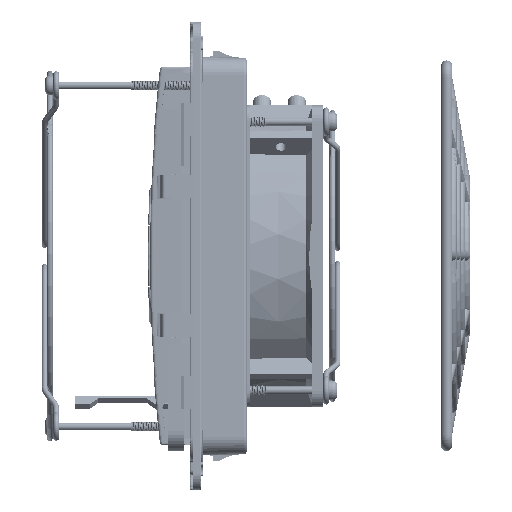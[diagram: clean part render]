
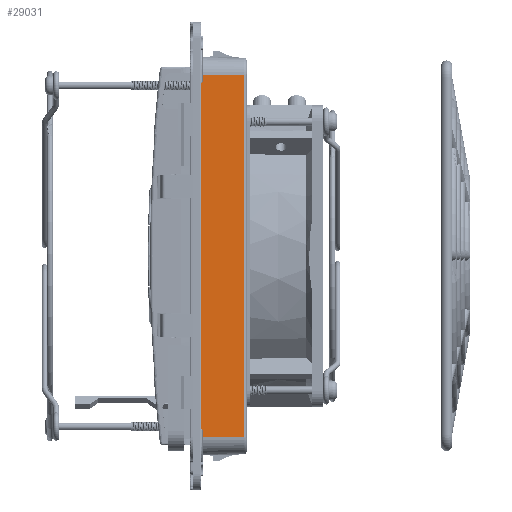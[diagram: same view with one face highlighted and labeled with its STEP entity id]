
A CAD part, left-side view. The second image highlights one B-rep face of the part: STEP entity #29031.
In plain terms, the highlighted planar face has unit normal (-1, -0.018, 0) as drawn and (0, 1, -0.017) by its records, which use the part's own axes.
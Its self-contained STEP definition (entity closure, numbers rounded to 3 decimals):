
#2553=LINE('',#143766,#6589);
#2794=LINE('',#148840,#6830);
#2795=LINE('',#148843,#6831);
#2796=LINE('',#148844,#6832);
#6589=VECTOR('',#117404,1.);
#6830=VECTOR('',#118369,1.);
#6831=VECTOR('',#118370,1.);
#6832=VECTOR('',#118371,1.);
#21549=PLANE('',#107866);
#23273=FACE_OUTER_BOUND('',#37325,.T.);
#29031=ADVANCED_FACE('',(#23273),#21549,.T.);
#37325=EDGE_LOOP('',(#45879,#45880,#45881,#45882));
#45879=ORIENTED_EDGE('',*,*,#88210,.T.);
#45880=ORIENTED_EDGE('',*,*,#88211,.T.);
#45881=ORIENTED_EDGE('',*,*,#87398,.F.);
#45882=ORIENTED_EDGE('',*,*,#88212,.F.);
#76912=VERTEX_POINT('',#143767);
#76913=VERTEX_POINT('',#143768);
#77644=VERTEX_POINT('',#148841);
#77645=VERTEX_POINT('',#148842);
#87398=EDGE_CURVE('',#76912,#76913,#2553,.T.);
#88210=EDGE_CURVE('',#77644,#77645,#2794,.T.);
#88211=EDGE_CURVE('',#77645,#76913,#2795,.T.);
#88212=EDGE_CURVE('',#77644,#76912,#2796,.T.);
#107866=AXIS2_PLACEMENT_3D('',#148845,#118372,#118373);
#117404=DIRECTION('',(-1.,0.,0.));
#118369=DIRECTION('',(-1.,0.,0.));
#118370=DIRECTION('',(-0.017,0.017,1.));
#118371=DIRECTION('',(0.017,0.017,1.));
#118372=DIRECTION('',(0.,1.,-0.017));
#118373=DIRECTION('',(0.,0.017,1.));
#143766=CARTESIAN_POINT('',(-14.881,108.52,1.83));
#143767=CARTESIAN_POINT('',(55.861,108.52,1.83));
#143768=CARTESIAN_POINT('',(-55.541,108.52,1.83));
#148840=CARTESIAN_POINT('',(-14.881,108.283,-11.788));
#148841=CARTESIAN_POINT('',(55.623,108.283,-11.788));
#148842=CARTESIAN_POINT('',(-55.303,108.283,-11.788));
#148843=CARTESIAN_POINT('',(-55.519,108.499,0.597));
#148844=CARTESIAN_POINT('',(55.839,108.499,0.597));
#148845=CARTESIAN_POINT('',(-14.881,108.52,1.831));
